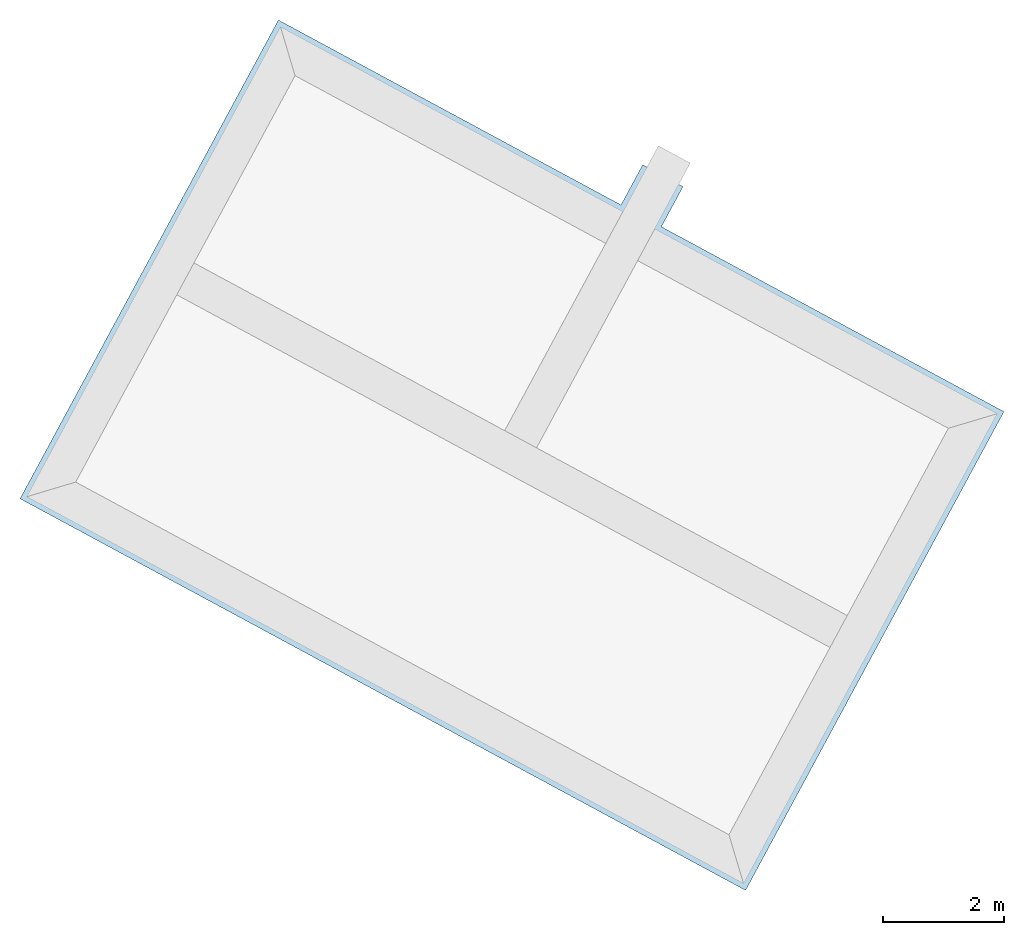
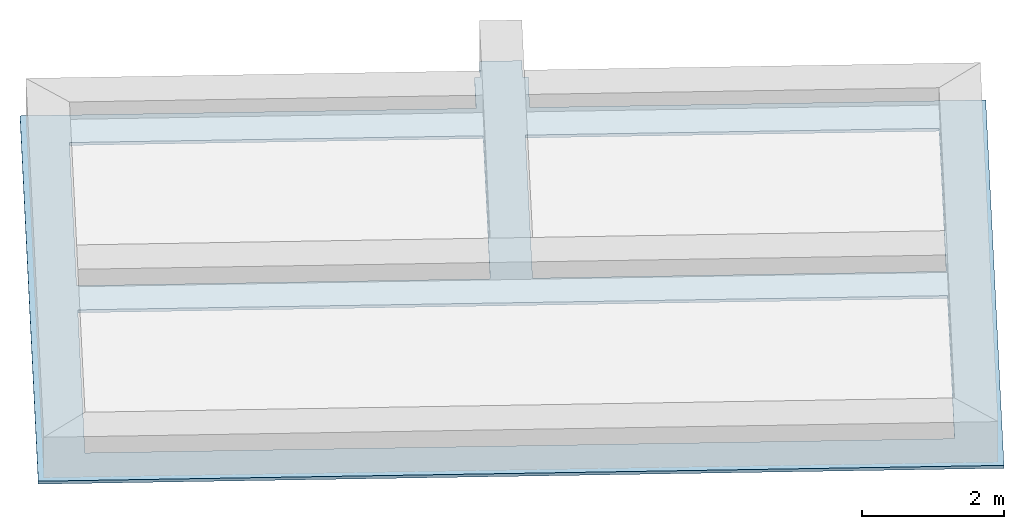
# One storey, part 2 of 3: 1 footing.
"""IFC2X3 building model written with IfcOpenShell, lengths in metres."""

import ifcopenshell
import ifcopenshell.guid

model = None  # the IFC model being written
_history = None  # IfcOwnerHistory: only IFC2X3 demands one
_inside = {}  # id of a spatial element -> (the spatial element, [elements in it])
_under = {}  # id of a project, library or spatial element -> (it, [spatial elements below it])
_declared = {}  # id of a project -> (the project, [libraries it declares])
_typed = {}  # id of a type object -> (the type object, [elements of that type])
_made_of = {}  # id of a material, layer set ... -> (it, [elements and type objects made of it])


def new_model(schema):
    """Start an empty IFC model of exactly this schema.

    Asked for "IFC4X3", IfcOpenShell would pick the latest addendum, in which some entities
    have other attributes; the version numbers below select the first issue.
    IFC2X3 requires an IfcOwnerHistory on every rooted entity: one is made here for all.
    """
    global model, _history
    if schema == "IFC4X3":
        model = ifcopenshell.file(schema_version=(4, 3, 0, 0))
    else:
        model = ifcopenshell.file(schema=schema)
    _inside.clear()
    _under.clear()
    _declared.clear()
    _typed.clear()
    _made_of.clear()
    _history = None
    if model.schema == "IFC2X3":
        org = make("IfcOrganization", Name="unknown")
        user = make(
            "IfcPersonAndOrganization",
            ThePerson=make("IfcPerson", FamilyName="unknown"),
            TheOrganization=org,
        )
        app = make(
            "IfcApplication",
            ApplicationDeveloper=org,
            Version="unknown",
            ApplicationFullName="unknown",
            ApplicationIdentifier="unknown",
        )
        _history = make(
            "IfcOwnerHistory",
            OwningUser=user,
            OwningApplication=app,
            ChangeAction="ADDED",
            CreationDate=0,
        )
    return model


def make(cls, **values):
    """One entity of the class cls with the attributes given. An attribute that is None is left unset."""
    return model.create_entity(
        cls, **{name: value for name, value in values.items() if value is not None}
    )


def entity(cls, *values):
    """Any entity or typed value of the class cls, its attributes in the order of the schema. None: left unset."""
    e = model.create_entity(cls)
    for i, value in enumerate(values):
        if value is not None:
            e[i] = value
    return e


def rooted(cls, **values):
    """An entity with a GlobalId (a new one), such as an element, a storey or a relation."""
    return make(cls, GlobalId=ifcopenshell.guid.new(), OwnerHistory=_history, **values)


def si_unit(unit_type, name, prefix=None):
    """IfcSIUnit, for example si_unit("LENGTHUNIT", "METRE", prefix="MILLI")."""
    return make("IfcSIUnit", UnitType=unit_type, Prefix=prefix, Name=name)


def converted_unit(unit_type, name, factor, base, dimensions=None, offset=None):
    """IfcConversionBasedUnit, such as the inch: factor (a typed value) times the base unit."""
    return make(
        "IfcConversionBasedUnit"
        if offset is None
        else "IfcConversionBasedUnitWithOffset",
        ConversionOffset=offset,
        Dimensions=None
        if dimensions is None
        else entity("IfcDimensionalExponents", *dimensions),
        UnitType=unit_type,
        Name=name,
        ConversionFactor=make(
            "IfcMeasureWithUnit", ValueComponent=factor, UnitComponent=base
        ),
    )


def derived_unit(unit_type, elements):
    """IfcDerivedUnit: a product of units, each with its exponent."""
    return make(
        "IfcDerivedUnit",
        Elements=[
            make("IfcDerivedUnitElement", Unit=unit, Exponent=power)
            for unit, power in elements
        ],
        UnitType=unit_type,
    )


def money_unit(currency):
    """IfcMonetaryUnit."""
    return make("IfcMonetaryUnit", Currency=currency)


def assignment(units):
    """IfcUnitAssignment: the units of a project."""
    return None if units is None else make("IfcUnitAssignment", Units=units)


def point(xyz):
    """IfcCartesianPoint."""
    return None if xyz is None else make("IfcCartesianPoint", Coordinates=xyz)


def direction(xyz):
    """IfcDirection."""
    return None if xyz is None else make("IfcDirection", DirectionRatios=xyz)


def frame(location, z_axis=None, x_axis=None):
    """IfcAxis2Placement3D, a coordinate frame: its origin and axes. An axis left out is left unset."""
    return make(
        "IfcAxis2Placement3D",
        Location=point(location),
        Axis=direction(z_axis),
        RefDirection=direction(x_axis),
    )


def origin_with_axes():
    """The frame at (0, 0, 0) with the z axis (0, 0, 1) and the x axis (1, 0, 0) written out."""
    return frame((0.0, 0.0, 0.0), z_axis=(0.0, 0.0, 1.0), x_axis=(1.0, 0.0, 0.0))


def place(relative_to, where):
    """IfcLocalPlacement: puts the frame where relative to a parent placement (None: the world)."""
    return make(
        "IfcLocalPlacement", PlacementRelTo=relative_to, RelativePlacement=where
    )


def context(
    kind, dimensions, precision=None, world=None, true_north=None, identifier=None
):
    """IfcGeometricRepresentationContext, for example the 3D "Model" context."""
    return make(
        "IfcGeometricRepresentationContext",
        ContextIdentifier=identifier,
        ContextType=kind,
        CoordinateSpaceDimension=dimensions,
        Precision=precision,
        WorldCoordinateSystem=world,
        TrueNorth=true_north,
    )


def subcontext(parent, identifier, kind, view, scale=None):
    """IfcGeometricRepresentationSubContext, for example "Body" below "Model"."""
    return make(
        "IfcGeometricRepresentationSubContext",
        ContextIdentifier=identifier,
        ContextType=kind,
        ParentContext=parent,
        TargetScale=scale,
        TargetView=view,
    )


def project(units=None, contexts=None):
    """IfcProject with its units and contexts."""
    return rooted(
        "IfcProject",
        Name="project",
        RepresentationContexts=contexts,
        UnitsInContext=assignment(units),
    )


def spatial(cls, under=None, at=None, **own):
    """A site, building, storey or space (cls), placed at a placement, below another one or the project."""
    s = rooted(cls, ObjectPlacement=at, **own)
    if under is not None:
        _under.setdefault(under.id(), (under, []))[1].append(s)
    return s


def faces_of(points, faces, orient=None, outer=None):
    """IfcFace entities. A face is a list of loops; a loop is a list of indices into points, from 0.

    orient and outer hold one flag for each loop. By default every Orientation is true, the
    first loop of a face is its IfcFaceOuterBound and the others are IfcFaceBound.
    """
    made = []
    for i, loops in enumerate(faces):
        bounds = []
        for j, loop in enumerate(loops):
            is_outer = j == 0 if outer is None else outer[i][j]
            bounds.append(
                make(
                    "IfcFaceOuterBound" if is_outer else "IfcFaceBound",
                    Bound=make("IfcPolyLoop", Polygon=[points[k] for k in loop]),
                    Orientation=True if orient is None else orient[i][j],
                )
            )
        made.append(make("IfcFace", Bounds=bounds))
    return made


def faceted_brep(points, faces, orient=None, outer=None, voids=None):
    """IfcFacetedBrep: a solid bounded by flat faces; with voids (closed shells), ...WithVoids."""
    shared = [point(p) for p in points]
    hull = make("IfcClosedShell", CfsFaces=faces_of(shared, faces, orient, outer))
    if voids is None:
        return make("IfcFacetedBrep", Outer=hull)
    return make(
        "IfcFacetedBrepWithVoids",
        Outer=hull,
        Voids=[
            make(cls, CfsFaces=faces_of(shared, fs, o, b)) for cls, fs, o, b in voids
        ],
    )


def shape(context_of_items, identifier, shape_type, items):
    """IfcShapeRepresentation: the items that make up one representation, for example the "Body"."""
    return make(
        "IfcShapeRepresentation",
        ContextOfItems=context_of_items,
        RepresentationIdentifier=identifier,
        RepresentationType=shape_type,
        Items=items,
    )


def material(Name=None, Category=None):
    """IfcMaterial."""
    return make("IfcMaterial", Name=Name, Category=Category)


def made_of(thing, what):
    """Note that an element or type object is made of a material, layer set ...; save() writes the relation."""
    if what is not None:
        _made_of.setdefault(what.id(), (what, []))[1].append(thing)
    return thing


def element(
    cls,
    number,
    at=None,
    inside=None,
    cuts=None,
    type_object=None,
    material=None,
    context=None,
    identifier="Body",
    shape_type=None,
    held_by="IfcProductDefinitionShape",
    body=None,
    shapes=None,
    **own,
):
    """One element of the class cls, such as IfcWall. Its Tag is "e" and its number.

    at: its placement. inside: the storey or other place that contains it. cuts: it is an
    opening in that element (IfcRelVoidsElement). A single representation is given by context,
    identifier, shape_type and body (its items); several are given by shapes. held_by: the class
    of the entity that holds the representations. save() writes the other relations.
    """
    e = rooted(cls, Tag="e%d" % number, ObjectPlacement=at, **own)
    if body is not None:
        shapes = [shape(context, identifier, shape_type, body)]
    if shapes is not None:
        e.Representation = make(held_by, Representations=shapes)
    if inside is not None:
        _inside.setdefault(inside.id(), (inside, []))[1].append(e)
    if cuts is not None:
        rooted(
            "IfcRelVoidsElement", RelatingBuildingElement=cuts, RelatedOpeningElement=e
        )
    if type_object is not None:
        _typed.setdefault(type_object.id(), (type_object, []))[1].append(e)
    return made_of(e, material)


def aggregate(whole, parts):
    """IfcRelAggregates: a whole, such as a stair, and the parts it consists of."""
    return rooted("IfcRelAggregates", RelatingObject=whole, RelatedObjects=parts)


def save(model, path):
    """Write the relations noted so far, then the file.

    IfcRelAggregates (storeys below a building ...), IfcRelContainedInSpatialStructure (elements
    in a storey), IfcRelDefinesByType, IfcRelAssociatesMaterial and IfcRelDeclares: one each for
    every whole, place, type object, material and project.
    """
    for whole, parts in _under.values():
        aggregate(whole, parts)
    for where, things in _inside.values():
        rooted(
            "IfcRelContainedInSpatialStructure",
            RelatedElements=things,
            RelatingStructure=where,
        )
    for kind, things in _typed.values():
        rooted("IfcRelDefinesByType", RelatedObjects=things, RelatingType=kind)
    for what, things in _made_of.values():
        rooted("IfcRelAssociatesMaterial", RelatedObjects=things, RelatingMaterial=what)
    for by, libraries in _declared.values():
        rooted("IfcRelDeclares", RelatingContext=by, RelatedDefinitions=libraries)
    model.write(path)


model = new_model("IFC2X3")

# Units and contexts
model_context = context("Model", 3, precision=1e-05, world=origin_with_axes(), true_north=direction((0.0, 1.0)))
body_context = subcontext(model_context, "Body", "Model", "MODEL_VIEW")
ifc_project = project(units=[si_unit("LENGTHUNIT", "METRE"), si_unit("AREAUNIT", "SQUARE_METRE"), si_unit("VOLUMEUNIT", "CUBIC_METRE"), converted_unit("PLANEANGLEUNIT", "DEGREE", entity("IfcPlaneAngleMeasure", 0.0174532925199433), si_unit("PLANEANGLEUNIT", "RADIAN"), dimensions=[0, 0, 0, 0, 0, 0, 0]), money_unit("EUR"), converted_unit("TIMEUNIT", "Year", entity("IfcTimeMeasure", 31556926.0), si_unit("TIMEUNIT", "SECOND"), dimensions=[0, 0, 1, 0, 0, 0, 0]), si_unit("MASSUNIT", "GRAM", prefix="KILO"), si_unit("THERMODYNAMICTEMPERATUREUNIT", "DEGREE_CELSIUS"), si_unit("LUMINOUSINTENSITYUNIT", "LUMEN"), si_unit("ENERGYUNIT", "JOULE", prefix="MEGA"), derived_unit("THERMALCONDUCTANCEUNIT", [(si_unit("POWERUNIT", "WATT"), 1), (si_unit("LENGTHUNIT", "METRE"), -1), (si_unit("THERMODYNAMICTEMPERATUREUNIT", "KELVIN"), -1)]), derived_unit("SPECIFICHEATCAPACITYUNIT", [(si_unit("ENERGYUNIT", "JOULE"), 1), (si_unit("MASSUNIT", "GRAM", prefix="KILO"), -1), (si_unit("THERMODYNAMICTEMPERATUREUNIT", "KELVIN"), -1)]), derived_unit("MASSDENSITYUNIT", [(si_unit("MASSUNIT", "GRAM", prefix="KILO"), 1), (si_unit("VOLUMEUNIT", "CUBIC_METRE"), -1)])], contexts=[model_context])

# Site, building, storey
site_placement = place(None, frame((-3.949935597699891, 1.740105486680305, 0.0), z_axis=(0.0, 0.0, 1.0), x_axis=(0.8799804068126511, -0.475009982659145, 0.0)))
site = spatial("IfcSite", under=ifc_project, at=site_placement, Name="Gelände", CompositionType="ELEMENT")
building_placement = place(site_placement, origin_with_axes())
building = spatial("IfcBuilding", under=site, at=building_placement, Name="Gebäude", CompositionType="ELEMENT")
storey_placement = place(building_placement, frame((0.0, 0.0, -3.68), z_axis=(0.0, 0.0, 1.0), x_axis=(1.0, 0.0, 0.0)))
storey = spatial("IfcBuildingStorey", under=building, at=storey_placement, Name="Gründung", CompositionType="ELEMENT", Elevation=-3.68)

# Footing
ifc_material = material(Name="Beton, unbewehrt")
footing_placement = place(storey_placement, frame((3.952529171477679, 19.43032037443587, 0.0), z_axis=(0.0, 0.0, 1.0), x_axis=(1.0, 0.0, 0.0)))
element("IfcFooting", 1, at=footing_placement, inside=storey, material=ifc_material, Name="Decke039", PredefinedType="NOTDEFINED", context=body_context, shape_type="Brep", body=[
    faceted_brep([(7.450648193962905e-06, -9.002519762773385, 0.0), (0.0, 0.0, 0.0), (0.0, 0.0, -0.04999999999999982), (7.450648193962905e-06, -9.002519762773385, -0.04999999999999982), (6.442476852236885, 0.7549671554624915, 0.0), (6.442476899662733, -4.016638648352e-07, 0.0), (13.64494894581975, -9.002519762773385, 0.0), (13.64494894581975, 1.920074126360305e-07, 0.0), (7.202476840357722, -8.82451089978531e-09, 0.0), (7.202476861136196, 0.7549671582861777, 0.0), (7.122476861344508, 0.7549671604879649, 0.0), (7.122476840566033, 1.154955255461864, 0.0), (6.522476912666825, 1.154955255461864, 0.0), (6.522476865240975, 0.7549671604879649, 0.0), (6.522477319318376, -0.6800000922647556, 0.0), (6.522476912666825, -4.20125992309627, 0.0), (0.6799996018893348, -4.201259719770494, 0.0), (0.6799996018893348, -0.6800000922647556, 0.0), (12.96495394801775, -4.801259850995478, 0.0), (12.96495394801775, -8.322519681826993, 0.0), (0.6799996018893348, -8.322519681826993, 0.0), (0.6800065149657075, -4.801259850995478, 0.0), (12.96495394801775, -0.6800000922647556, 0.0), (12.96495394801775, -4.201259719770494, 0.0), (7.122477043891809, -4.20125992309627, 0.0), (7.122477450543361, -0.6800000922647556, 0.0), (6.442476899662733, -4.016638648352e-07, -0.04999999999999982), (6.442476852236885, 0.7549671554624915, -0.04999999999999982), (6.522476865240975, 0.7549671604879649, -0.04999999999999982), (6.522476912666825, 1.154955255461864, -0.04999999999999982), (7.122476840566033, 1.154955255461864, -0.04999999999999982), (7.122476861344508, 0.7549671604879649, -0.04999999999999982), (7.202476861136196, 0.7549671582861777, -0.04999999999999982), (7.202476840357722, -8.82451089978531e-09, -0.04999999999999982), (13.64494894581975, 1.920074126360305e-07, -0.04999999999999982), (13.64494894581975, -9.002519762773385, -0.04999999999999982), (6.522477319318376, -0.6800000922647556, -0.04999999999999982), (0.6799996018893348, -0.6800000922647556, -0.04999999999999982), (0.6799996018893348, -4.201259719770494, -0.04999999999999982), (6.522476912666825, -4.20125992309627, -0.04999999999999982), (12.96495394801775, -4.801259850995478, -0.04999999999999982), (0.6800065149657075, -4.801259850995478, -0.04999999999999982), (0.6799996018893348, -8.322519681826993, -0.04999999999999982), (12.96495394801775, -8.322519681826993, -0.04999999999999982), (12.96495394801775, -0.6800000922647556, -0.04999999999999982), (7.122477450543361, -0.6800000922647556, -0.04999999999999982), (7.122477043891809, -4.20125992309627, -0.04999999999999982), (12.96495394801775, -4.201259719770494, -0.04999999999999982)], [[[0, 1, 2, 3]], [[4, 5, 1, 0, 6, 7, 8, 9, 10, 11, 12, 13], [14, 15, 16, 17], [18, 19, 20, 21], [22, 23, 24, 25]], [[1, 5, 26, 2]], [[3, 2, 26, 27, 28, 29, 30, 31, 32, 33, 34, 35], [36, 37, 38, 39], [40, 41, 42, 43], [44, 45, 46, 47]], [[6, 0, 3, 35]], [[5, 4, 27, 26]], [[7, 6, 35, 34]], [[8, 7, 34, 33]], [[9, 8, 33, 32]], [[10, 9, 32, 31]], [[11, 10, 31, 30]], [[12, 11, 30, 29]], [[13, 12, 29, 28]], [[4, 13, 28, 27]], [[15, 14, 36, 39]], [[16, 15, 39, 38]], [[17, 16, 38, 37]], [[14, 17, 37, 36]], [[19, 18, 40, 43]], [[20, 19, 43, 42]], [[21, 20, 42, 41]], [[18, 21, 41, 40]], [[23, 22, 44, 47]], [[24, 23, 47, 46]], [[25, 24, 46, 45]], [[22, 25, 45, 44]]]),
])

save(model, "model.ifc")
